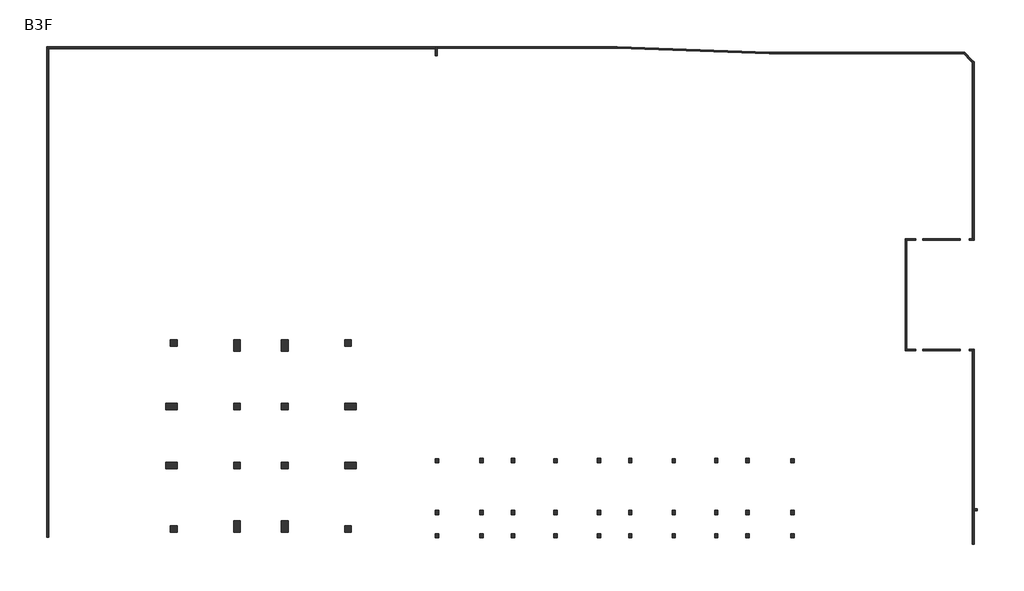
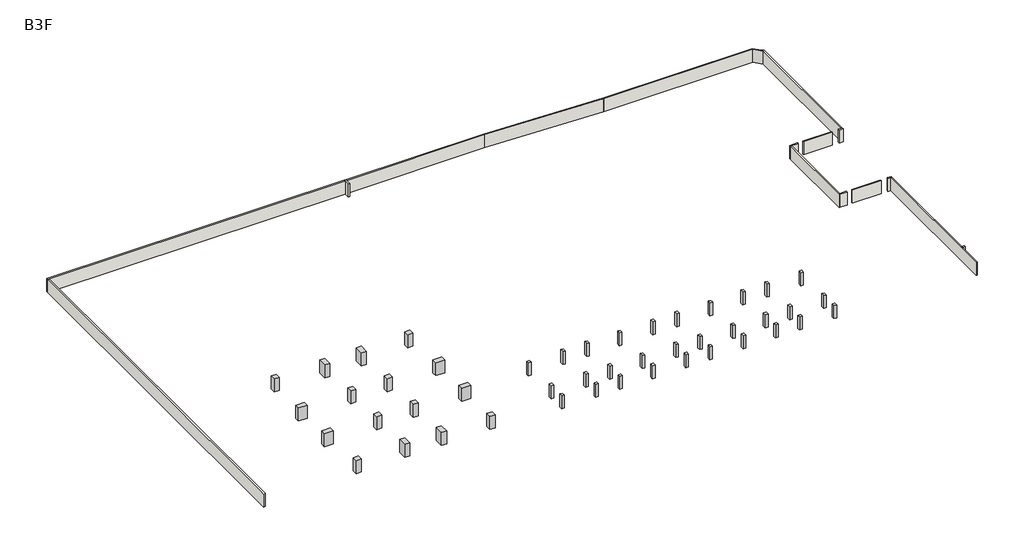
# One storey: 46 columns, 19 walls.
"""IFC4 building model written with IfcOpenShell, lengths in millimetres."""

import ifcopenshell
import ifcopenshell.guid

model = None  # the IFC model being written
_history = None  # IfcOwnerHistory: only IFC2X3 demands one
_inside = {}  # id of a spatial element -> (the spatial element, [elements in it])
_under = {}  # id of a project, library or spatial element -> (it, [spatial elements below it])
_declared = {}  # id of a project -> (the project, [libraries it declares])
_typed = {}  # id of a type object -> (the type object, [elements of that type])
_made_of = {}  # id of a material, layer set ... -> (it, [elements and type objects made of it])


def new_model(schema):
    """Start an empty IFC model of exactly this schema.

    Asked for "IFC4X3", IfcOpenShell would pick the latest addendum, in which some entities
    have other attributes; the version numbers below select the first issue.
    IFC2X3 requires an IfcOwnerHistory on every rooted entity: one is made here for all.
    """
    global model, _history
    if schema == "IFC4X3":
        model = ifcopenshell.file(schema_version=(4, 3, 0, 0))
    else:
        model = ifcopenshell.file(schema=schema)
    _inside.clear()
    _under.clear()
    _declared.clear()
    _typed.clear()
    _made_of.clear()
    _history = None
    if model.schema == "IFC2X3":
        org = make("IfcOrganization", Name="unknown")
        user = make(
            "IfcPersonAndOrganization",
            ThePerson=make("IfcPerson", FamilyName="unknown"),
            TheOrganization=org,
        )
        app = make(
            "IfcApplication",
            ApplicationDeveloper=org,
            Version="unknown",
            ApplicationFullName="unknown",
            ApplicationIdentifier="unknown",
        )
        _history = make(
            "IfcOwnerHistory",
            OwningUser=user,
            OwningApplication=app,
            ChangeAction="ADDED",
            CreationDate=0,
        )
    return model


def make(cls, **values):
    """One entity of the class cls with the attributes given. An attribute that is None is left unset."""
    return model.create_entity(
        cls, **{name: value for name, value in values.items() if value is not None}
    )


def rooted(cls, **values):
    """An entity with a GlobalId (a new one), such as an element, a storey or a relation."""
    return make(cls, GlobalId=ifcopenshell.guid.new(), OwnerHistory=_history, **values)


def si_unit(unit_type, name, prefix=None):
    """IfcSIUnit, for example si_unit("LENGTHUNIT", "METRE", prefix="MILLI")."""
    return make("IfcSIUnit", UnitType=unit_type, Prefix=prefix, Name=name)


def assignment(units):
    """IfcUnitAssignment: the units of a project."""
    return None if units is None else make("IfcUnitAssignment", Units=units)


def point(xyz):
    """IfcCartesianPoint."""
    return None if xyz is None else make("IfcCartesianPoint", Coordinates=xyz)


def direction(xyz):
    """IfcDirection."""
    return None if xyz is None else make("IfcDirection", DirectionRatios=xyz)


def frame(location, z_axis=None, x_axis=None):
    """IfcAxis2Placement3D, a coordinate frame: its origin and axes. An axis left out is left unset."""
    return make(
        "IfcAxis2Placement3D",
        Location=point(location),
        Axis=direction(z_axis),
        RefDirection=direction(x_axis),
    )


def origin():
    """The frame at (0, 0, 0) with its axes left unset."""
    return frame((0.0, 0.0, 0.0))


def place(relative_to, where):
    """IfcLocalPlacement: puts the frame where relative to a parent placement (None: the world)."""
    return make(
        "IfcLocalPlacement", PlacementRelTo=relative_to, RelativePlacement=where
    )


def context(
    kind, dimensions, precision=None, world=None, true_north=None, identifier=None
):
    """IfcGeometricRepresentationContext, for example the 3D "Model" context."""
    return make(
        "IfcGeometricRepresentationContext",
        ContextIdentifier=identifier,
        ContextType=kind,
        CoordinateSpaceDimension=dimensions,
        Precision=precision,
        WorldCoordinateSystem=world,
        TrueNorth=true_north,
    )


def project(units=None, contexts=None):
    """IfcProject with its units and contexts."""
    return rooted(
        "IfcProject",
        Name="project",
        RepresentationContexts=contexts,
        UnitsInContext=assignment(units),
    )


def spatial(cls, under=None, at=None, **own):
    """A site, building, storey or space (cls), placed at a placement, below another one or the project."""
    s = rooted(cls, ObjectPlacement=at, **own)
    if under is not None:
        _under.setdefault(under.id(), (under, []))[1].append(s)
    return s


def polyline(points):
    """IfcPolyline through the points."""
    return make("IfcPolyline", Points=[point(p) for p in points])


def outline(outer, holes=None, kind="AREA"):
    """IfcArbitraryClosedProfileDef: a profile drawn as a closed curve; with holes, ...WithVoids."""
    if holes is None:
        return make("IfcArbitraryClosedProfileDef", ProfileType=kind, OuterCurve=outer)
    return make(
        "IfcArbitraryProfileDefWithVoids",
        ProfileType=kind,
        OuterCurve=outer,
        InnerCurves=holes,
    )


def extrude(swept, where, along, depth):
    """IfcExtrudedAreaSolid: the profile swept, set in the frame where, extruded along a direction by depth."""
    return make(
        "IfcExtrudedAreaSolid",
        SweptArea=swept,
        Position=where,
        ExtrudedDirection=direction(along),
        Depth=depth,
    )


def faces_of(points, faces, orient=None, outer=None):
    """IfcFace entities. A face is a list of loops; a loop is a list of indices into points, from 0.

    orient and outer hold one flag for each loop. By default every Orientation is true, the
    first loop of a face is its IfcFaceOuterBound and the others are IfcFaceBound.
    """
    made = []
    for i, loops in enumerate(faces):
        bounds = []
        for j, loop in enumerate(loops):
            is_outer = j == 0 if outer is None else outer[i][j]
            bounds.append(
                make(
                    "IfcFaceOuterBound" if is_outer else "IfcFaceBound",
                    Bound=make("IfcPolyLoop", Polygon=[points[k] for k in loop]),
                    Orientation=True if orient is None else orient[i][j],
                )
            )
        made.append(make("IfcFace", Bounds=bounds))
    return made


def faceted_brep(points, faces, orient=None, outer=None, voids=None):
    """IfcFacetedBrep: a solid bounded by flat faces; with voids (closed shells), ...WithVoids."""
    shared = [point(p) for p in points]
    hull = make("IfcClosedShell", CfsFaces=faces_of(shared, faces, orient, outer))
    if voids is None:
        return make("IfcFacetedBrep", Outer=hull)
    return make(
        "IfcFacetedBrepWithVoids",
        Outer=hull,
        Voids=[
            make(cls, CfsFaces=faces_of(shared, fs, o, b)) for cls, fs, o, b in voids
        ],
    )


def shape(context_of_items, identifier, shape_type, items):
    """IfcShapeRepresentation: the items that make up one representation, for example the "Body"."""
    return make(
        "IfcShapeRepresentation",
        ContextOfItems=context_of_items,
        RepresentationIdentifier=identifier,
        RepresentationType=shape_type,
        Items=items,
    )


def source(mapping_origin, context_of_items, identifier, shape_type, items):
    """IfcRepresentationMap: a shape defined once, which mapped items show again and again."""
    return make(
        "IfcRepresentationMap",
        MappingOrigin=mapping_origin,
        MappedRepresentation=shape(context_of_items, identifier, shape_type, items),
    )


def transform(
    local_origin,
    x_axis=None,
    y_axis=None,
    z_axis=None,
    scale=None,
    scale2=None,
    scale3=None,
    uniform=True,
):
    """IfcCartesianTransformationOperator3D, or its non-uniform kind. x_axis, y_axis, z_axis: its Axis1, 2, 3."""
    if uniform:
        return make(
            "IfcCartesianTransformationOperator3D",
            Axis1=direction(x_axis),
            Axis2=direction(y_axis),
            LocalOrigin=point(local_origin),
            Scale=scale,
            Axis3=direction(z_axis),
        )
    return make(
        "IfcCartesianTransformationOperator3DnonUniform",
        Axis1=direction(x_axis),
        Axis2=direction(y_axis),
        LocalOrigin=point(local_origin),
        Scale=scale,
        Axis3=direction(z_axis),
        Scale2=scale2,
        Scale3=scale3,
    )


def mapped(mapping_source, mapping_target):
    """IfcMappedItem: shows the shape of a source again, moved by a transform."""
    return make(
        "IfcMappedItem", MappingSource=mapping_source, MappingTarget=mapping_target
    )


def made_of(thing, what):
    """Note that an element or type object is made of a material, layer set ...; save() writes the relation."""
    if what is not None:
        _made_of.setdefault(what.id(), (what, []))[1].append(thing)
    return thing


def element(
    cls,
    number,
    at=None,
    inside=None,
    cuts=None,
    type_object=None,
    material=None,
    context=None,
    identifier="Body",
    shape_type=None,
    held_by="IfcProductDefinitionShape",
    body=None,
    shapes=None,
    **own,
):
    """One element of the class cls, such as IfcWall. Its Tag is "e" and its number.

    at: its placement. inside: the storey or other place that contains it. cuts: it is an
    opening in that element (IfcRelVoidsElement). A single representation is given by context,
    identifier, shape_type and body (its items); several are given by shapes. held_by: the class
    of the entity that holds the representations. save() writes the other relations.
    """
    e = rooted(cls, Tag="e%d" % number, ObjectPlacement=at, **own)
    if body is not None:
        shapes = [shape(context, identifier, shape_type, body)]
    if shapes is not None:
        e.Representation = make(held_by, Representations=shapes)
    if inside is not None:
        _inside.setdefault(inside.id(), (inside, []))[1].append(e)
    if cuts is not None:
        rooted(
            "IfcRelVoidsElement", RelatingBuildingElement=cuts, RelatedOpeningElement=e
        )
    if type_object is not None:
        _typed.setdefault(type_object.id(), (type_object, []))[1].append(e)
    return made_of(e, material)


def aggregate(whole, parts):
    """IfcRelAggregates: a whole, such as a stair, and the parts it consists of."""
    return rooted("IfcRelAggregates", RelatingObject=whole, RelatedObjects=parts)


def save(model, path):
    """Write the relations noted so far, then the file.

    IfcRelAggregates (storeys below a building ...), IfcRelContainedInSpatialStructure (elements
    in a storey), IfcRelDefinesByType, IfcRelAssociatesMaterial and IfcRelDeclares: one each for
    every whole, place, type object, material and project.
    """
    for whole, parts in _under.values():
        aggregate(whole, parts)
    for where, things in _inside.values():
        rooted(
            "IfcRelContainedInSpatialStructure",
            RelatedElements=things,
            RelatingStructure=where,
        )
    for kind, things in _typed.values():
        rooted("IfcRelDefinesByType", RelatedObjects=things, RelatingType=kind)
    for what, things in _made_of.values():
        rooted("IfcRelAssociatesMaterial", RelatedObjects=things, RelatingMaterial=what)
    for by, libraries in _declared.values():
        rooted("IfcRelDeclares", RelatingContext=by, RelatedDefinitions=libraries)
    model.write(path)


def column_120_x_120cm_3a74ff08(model_context):
    return source(origin(), model_context, "Body", "SweptSolid", [
        extrude(outline(polyline([(600.0, 600.0), (600.0, -600.0), (-600.0, -600.0), (-600.0, 600.0), (600.0, 600.0)])), frame((0.0, 0.0, -9600.0), z_axis=(0.0, 0.0, 1.0), x_axis=(1.0, 0.0, 0.0)), (0.0, 0.0, 1.0), 3200.0),
    ])


def column_120_x_205cm_2bef428c(model_context):
    return source(origin(), model_context, "Body", "SweptSolid", [
        extrude(outline(polyline([(1025.0, 600.0), (1025.0, -600.0), (-1025.0, -600.0), (-1025.0, 600.0), (1025.0, 600.0)])), frame((0.0, 0.0, -9600.0), z_axis=(0.0, 0.0, 1.0), x_axis=(1.0, 0.0, 0.0)), (0.0, 0.0, 1.0), 3200.0),
    ])


def column_60_x_70cm_ea97037a(model_context):
    return source(origin(), model_context, "Body", "SweptSolid", [
        extrude(outline(polyline([(300.0, 350.0), (300.0, -350.0), (-300.0, -350.0), (-300.0, 350.0), (300.0, 350.0)])), frame((0.0, 0.0, -9600.0), z_axis=(0.0, 0.0, 1.0), x_axis=(1.0, 0.0, 0.0)), (0.0, 0.0, 1.0), 3200.0),
    ])


def column_60_x_80cm_a3a05302(model_context):
    return source(origin(), model_context, "Body", "SweptSolid", [
        extrude(outline(polyline([(300.0, 400.0), (300.0, -400.0), (-300.0, -400.0), (-300.0, 400.0), (300.0, 400.0)])), frame((0.0, 0.0, -9600.0), z_axis=(0.0, 0.0, 1.0), x_axis=(1.0, 0.0, 0.0)), (0.0, 0.0, 1.0), 3200.0),
    ])


model = new_model("IFC4")

# Units and contexts
model_context = context("Model", 3, world=origin())
ifc_project = project(units=[si_unit("LENGTHUNIT", "METRE", prefix="MILLI")], contexts=[model_context])

# Site, building, storey
site = spatial("IfcSite", under=ifc_project)
building = spatial("IfcBuilding", under=site)
storey = spatial("IfcBuildingStorey", under=building, Name="B3F", Elevation=-9600.0)

# Columns
placement = place(None, origin())
column_120_x_120cm_shape = column_120_x_120cm_3a74ff08(model_context)
element("IfcColumn", 1, ObjectType="混凝土柱-矩形 : 120 x 120cm", at=placement, inside=storey, context=model_context, shape_type="MappedRepresentation", body=[
    mapped(column_120_x_120cm_shape, transform((-22059.5068359, -37824.1915469, 0.0), x_axis=(1.0, 0.0, 0.0), y_axis=(0.0, 1.0, 0.0), z_axis=(0.0, 0.0, 1.0))),
])
element("IfcColumn", 2, ObjectType="混凝土柱-矩形 : 120 x 120cm", at=placement, inside=storey, context=model_context, shape_type="MappedRepresentation", body=[
    mapped(column_120_x_120cm_shape, transform((9090.4931641, -37824.1915469, 0.0), x_axis=(1.0, 0.0, 0.0), y_axis=(0.0, 1.0, 0.0), z_axis=(0.0, 0.0, 1.0))),
])
element("IfcColumn", 3, ObjectType="混凝土柱-矩形 : 120 x 120cm", at=placement, inside=storey, context=model_context, shape_type="MappedRepresentation", body=[
    mapped(column_120_x_120cm_shape, transform((-22059.5068359, -4624.191547, 0.0), x_axis=(1.0, 0.0, 0.0), y_axis=(0.0, 1.0, 0.0), z_axis=(0.0, 0.0, 1.0))),
])
element("IfcColumn", 4, ObjectType="混凝土柱-矩形 : 120 x 120cm", at=placement, inside=storey, context=model_context, shape_type="MappedRepresentation", body=[
    mapped(column_120_x_120cm_shape, transform((9090.4931641, -4624.191547, 0.0), x_axis=(1.0, 0.0, 0.0), y_axis=(0.0, 1.0, 0.0), z_axis=(0.0, 0.0, 1.0))),
])
element("IfcColumn", 5, ObjectType="混凝土柱-矩形 : 120 x 120cm", at=placement, inside=storey, context=model_context, shape_type="MappedRepresentation", body=[
    mapped(column_120_x_120cm_shape, transform((-10759.5068359, -15974.191547, 0.0), x_axis=(1.0, 0.0, 0.0), y_axis=(0.0, 1.0, 0.0), z_axis=(0.0, 0.0, 1.0))),
])
element("IfcColumn", 6, ObjectType="混凝土柱-矩形 : 120 x 120cm", at=placement, inside=storey, context=model_context, shape_type="MappedRepresentation", body=[
    mapped(column_120_x_120cm_shape, transform((-2209.5068359, -15974.191547, 0.0), x_axis=(1.0, 0.0, 0.0), y_axis=(0.0, 1.0, 0.0), z_axis=(0.0, 0.0, 1.0))),
])
element("IfcColumn", 7, ObjectType="混凝土柱-矩形 : 120 x 120cm", at=placement, inside=storey, context=model_context, shape_type="MappedRepresentation", body=[
    mapped(column_120_x_120cm_shape, transform((-10759.5068359, -26474.1915469, 0.0), x_axis=(1.0, 0.0, 0.0), y_axis=(0.0, 1.0, 0.0), z_axis=(0.0, 0.0, 1.0))),
])
element("IfcColumn", 8, ObjectType="混凝土柱-矩形 : 120 x 120cm", at=placement, inside=storey, context=model_context, shape_type="MappedRepresentation", body=[
    mapped(column_120_x_120cm_shape, transform((-2209.5068359, -26474.1915469, 0.0), x_axis=(1.0, 0.0, 0.0), y_axis=(0.0, 1.0, 0.0), z_axis=(0.0, 0.0, 1.0))),
])
column_120_x_205cm_shape = column_120_x_205cm_2bef428c(model_context)
element("IfcColumn", 9, ObjectType="混凝土柱-矩形 : 120 x 205cm", at=placement, inside=storey, context=model_context, shape_type="MappedRepresentation", body=[
    mapped(column_120_x_205cm_shape, transform((-10759.5068359, -37399.1915469, 0.0), x_axis=(0.0, 1.0, 0.0), y_axis=(-1.0, 0.0, 0.0), z_axis=(0.0, 0.0, 1.0))),
])
element("IfcColumn", 10, ObjectType="混凝土柱-矩形 : 120 x 205cm", at=placement, inside=storey, context=model_context, shape_type="MappedRepresentation", body=[
    mapped(column_120_x_205cm_shape, transform((-2209.5068359, -37399.1915469, 0.0), x_axis=(0.0, 1.0, 0.0), y_axis=(-1.0, 0.0, 0.0), z_axis=(0.0, 0.0, 1.0))),
])
element("IfcColumn", 11, ObjectType="混凝土柱-矩形 : 120 x 205cm", at=placement, inside=storey, context=model_context, shape_type="MappedRepresentation", body=[
    mapped(column_120_x_205cm_shape, transform((9515.4931641, -26474.1915469, 0.0), x_axis=(1.0, 0.0, 0.0), y_axis=(0.0, 1.0, 0.0), z_axis=(0.0, 0.0, 1.0))),
])
element("IfcColumn", 12, ObjectType="混凝土柱-矩形 : 120 x 205cm", at=placement, inside=storey, context=model_context, shape_type="MappedRepresentation", body=[
    mapped(column_120_x_205cm_shape, transform((9515.4931641, -15974.1915469, 0.0), x_axis=(1.0, 0.0, 0.0), y_axis=(0.0, 1.0, 0.0), z_axis=(0.0, 0.0, 1.0))),
])
element("IfcColumn", 13, ObjectType="混凝土柱-矩形 : 120 x 205cm", at=placement, inside=storey, context=model_context, shape_type="MappedRepresentation", body=[
    mapped(column_120_x_205cm_shape, transform((-22484.5068359, -26474.1915469, 0.0), x_axis=(1.0, 0.0, 0.0), y_axis=(0.0, 1.0, 0.0), z_axis=(0.0, 0.0, 1.0))),
])
element("IfcColumn", 14, ObjectType="混凝土柱-矩形 : 120 x 205cm", at=placement, inside=storey, context=model_context, shape_type="MappedRepresentation", body=[
    mapped(column_120_x_205cm_shape, transform((-22484.5068359, -15974.1915469, 0.0), x_axis=(1.0, 0.0, 0.0), y_axis=(0.0, 1.0, 0.0), z_axis=(0.0, 0.0, 1.0))),
])
element("IfcColumn", 15, ObjectType="混凝土柱-矩形 : 120 x 205cm", at=placement, inside=storey, context=model_context, shape_type="MappedRepresentation", body=[
    mapped(column_120_x_205cm_shape, transform((-10759.5068359, -5049.1915469, 0.0), x_axis=(0.0, 1.0, 0.0), y_axis=(-1.0, 0.0, 0.0), z_axis=(0.0, 0.0, 1.0))),
])
element("IfcColumn", 16, ObjectType="混凝土柱-矩形 : 120 x 205cm", at=placement, inside=storey, context=model_context, shape_type="MappedRepresentation", body=[
    mapped(column_120_x_205cm_shape, transform((-2209.5068359, -5049.1915469, 0.0), x_axis=(0.0, 1.0, 0.0), y_axis=(-1.0, 0.0, 0.0), z_axis=(0.0, 0.0, 1.0))),
])
column_60_x_70cm_shape = column_60_x_70cm_ea97037a(model_context)
element("IfcColumn", 17, ObjectType="混凝土柱-矩形 : 60 x 70cm", at=placement, inside=storey, context=model_context, shape_type="MappedRepresentation", body=[
    mapped(column_60_x_70cm_shape, transform((24947.2847548, -25660.3669191, 0.0), x_axis=(1.0, 0.0, 0.0), y_axis=(0.0, 1.0, 0.0), z_axis=(0.0, 0.0, 1.0))),
])
element("IfcColumn", 18, ObjectType="混凝土柱-矩形 : 60 x 70cm", at=placement, inside=storey, context=model_context, shape_type="MappedRepresentation", body=[
    mapped(column_60_x_70cm_shape, transform((24940.4931641, -39024.1520077, 0.0), x_axis=(1.0, 0.0, 0.0), y_axis=(0.0, 1.0, 0.0), z_axis=(0.0, 0.0, 1.0))),
])
element("IfcColumn", 19, ObjectType="混凝土柱-矩形 : 60 x 70cm", at=placement, inside=storey, context=model_context, shape_type="MappedRepresentation", body=[
    mapped(column_60_x_70cm_shape, transform((32940.4932098, -39024.1520077, 0.0), x_axis=(1.0, 0.0, 0.0), y_axis=(0.0, 1.0, 0.0), z_axis=(0.0, 0.0, 1.0))),
])
element("IfcColumn", 20, ObjectType="混凝土柱-矩形 : 60 x 70cm", at=placement, inside=storey, context=model_context, shape_type="MappedRepresentation", body=[
    mapped(column_60_x_70cm_shape, transform((38540.49321, -39024.1520077, 0.0), x_axis=(1.0, 0.0, 0.0), y_axis=(0.0, 1.0, 0.0), z_axis=(0.0, 0.0, 1.0))),
])
element("IfcColumn", 21, ObjectType="混凝土柱-矩形 : 60 x 70cm", at=placement, inside=storey, context=model_context, shape_type="MappedRepresentation", body=[
    mapped(column_60_x_70cm_shape, transform((46140.4927738, -39024.1520077, 0.0), x_axis=(1.0, 0.0, 0.0), y_axis=(0.0, 1.0, 0.0), z_axis=(0.0, 0.0, 1.0))),
])
element("IfcColumn", 22, ObjectType="混凝土柱-矩形 : 60 x 70cm", at=placement, inside=storey, context=model_context, shape_type="MappedRepresentation", body=[
    mapped(column_60_x_70cm_shape, transform((53890.4932101, -39024.1520077, 0.0), x_axis=(1.0, 0.0, 0.0), y_axis=(0.0, 1.0, 0.0), z_axis=(0.0, 0.0, 1.0))),
])
element("IfcColumn", 23, ObjectType="混凝土柱-矩形 : 60 x 70cm", at=placement, inside=storey, context=model_context, shape_type="MappedRepresentation", body=[
    mapped(column_60_x_70cm_shape, transform((59490.4932102, -39024.1520077, 0.0), x_axis=(1.0, 0.0, 0.0), y_axis=(0.0, 1.0, 0.0), z_axis=(0.0, 0.0, 1.0))),
])
element("IfcColumn", 24, ObjectType="混凝土柱-矩形 : 60 x 70cm", at=placement, inside=storey, context=model_context, shape_type="MappedRepresentation", body=[
    mapped(column_60_x_70cm_shape, transform((67240.4936462, -39024.1520077, 0.0), x_axis=(1.0, 0.0, 0.0), y_axis=(0.0, 1.0, 0.0), z_axis=(0.0, 0.0, 1.0))),
])
element("IfcColumn", 25, ObjectType="混凝土柱-矩形 : 60 x 70cm", at=placement, inside=storey, context=model_context, shape_type="MappedRepresentation", body=[
    mapped(column_60_x_70cm_shape, transform((74840.4932103, -39024.1520077, 0.0), x_axis=(1.0, 0.0, 0.0), y_axis=(0.0, 1.0, 0.0), z_axis=(0.0, 0.0, 1.0))),
])
element("IfcColumn", 26, ObjectType="混凝土柱-矩形 : 60 x 70cm", at=placement, inside=storey, context=model_context, shape_type="MappedRepresentation", body=[
    mapped(column_60_x_70cm_shape, transform((80440.4932105, -39024.1520077, 0.0), x_axis=(1.0, 0.0, 0.0), y_axis=(0.0, 1.0, 0.0), z_axis=(0.0, 0.0, 1.0))),
])
element("IfcColumn", 27, ObjectType="混凝土柱-矩形 : 60 x 70cm", at=placement, inside=storey, context=model_context, shape_type="MappedRepresentation", body=[
    mapped(column_60_x_70cm_shape, transform((88440.4932562, -39024.1520077, 0.0), x_axis=(1.0, 0.0, 0.0), y_axis=(0.0, 1.0, 0.0), z_axis=(0.0, 0.0, 1.0))),
])
element("IfcColumn", 28, ObjectType="混凝土柱-矩形 : 60 x 70cm", at=placement, inside=storey, context=model_context, shape_type="MappedRepresentation", body=[
    mapped(column_60_x_70cm_shape, transform((46147.2847548, -25660.3669191, 0.0), x_axis=(1.0, 0.0, 0.0), y_axis=(0.0, 1.0, 0.0), z_axis=(0.0, 0.0, 1.0))),
])
element("IfcColumn", 29, ObjectType="混凝土柱-矩形 : 60 x 70cm", at=placement, inside=storey, context=model_context, shape_type="MappedRepresentation", body=[
    mapped(column_60_x_70cm_shape, transform((67247.2847548, -25660.3669191, 0.0), x_axis=(1.0, 0.0, 0.0), y_axis=(0.0, 1.0, 0.0), z_axis=(0.0, 0.0, 1.0))),
])
element("IfcColumn", 30, ObjectType="混凝土柱-矩形 : 60 x 70cm", at=placement, inside=storey, context=model_context, shape_type="MappedRepresentation", body=[
    mapped(column_60_x_70cm_shape, transform((88440.4928203, -25649.1427382, 0.0), x_axis=(1.0, 0.0, 0.0), y_axis=(0.0, 1.0, 0.0), z_axis=(0.0, 0.0, 1.0))),
])
column_60_x_80cm_shape = column_60_x_80cm_a3a05302(model_context)
element("IfcColumn", 31, ObjectType="混凝土柱-矩形 : 60 x 80cm", at=placement, inside=storey, context=model_context, shape_type="MappedRepresentation", body=[
    mapped(column_60_x_80cm_shape, transform((24940.4931641, -34874.1426254, 0.0), x_axis=(1.0, 0.0, 0.0), y_axis=(0.0, 1.0, 0.0), z_axis=(0.0, 0.0, 1.0))),
])
element("IfcColumn", 32, ObjectType="混凝土柱-矩形 : 60 x 80cm", at=placement, inside=storey, context=model_context, shape_type="MappedRepresentation", body=[
    mapped(column_60_x_80cm_shape, transform((32940.4932098, -34874.1426254, 0.0), x_axis=(1.0, 0.0, 0.0), y_axis=(0.0, 1.0, 0.0), z_axis=(0.0, 0.0, 1.0))),
])
element("IfcColumn", 33, ObjectType="混凝土柱-矩形 : 60 x 80cm", at=placement, inside=storey, context=model_context, shape_type="MappedRepresentation", body=[
    mapped(column_60_x_80cm_shape, transform((38540.49321, -34874.1426254, 0.0), x_axis=(1.0, 0.0, 0.0), y_axis=(0.0, 1.0, 0.0), z_axis=(0.0, 0.0, 1.0))),
])
element("IfcColumn", 34, ObjectType="混凝土柱-矩形 : 60 x 80cm", at=placement, inside=storey, context=model_context, shape_type="MappedRepresentation", body=[
    mapped(column_60_x_80cm_shape, transform((46140.4927738, -34874.1426254, 0.0), x_axis=(1.0, 0.0, 0.0), y_axis=(0.0, 1.0, 0.0), z_axis=(0.0, 0.0, 1.0))),
])
element("IfcColumn", 35, ObjectType="混凝土柱-矩形 : 60 x 80cm", at=placement, inside=storey, context=model_context, shape_type="MappedRepresentation", body=[
    mapped(column_60_x_80cm_shape, transform((53890.4932101, -34874.1426254, 0.0), x_axis=(1.0, 0.0, 0.0), y_axis=(0.0, 1.0, 0.0), z_axis=(0.0, 0.0, 1.0))),
])
element("IfcColumn", 36, ObjectType="混凝土柱-矩形 : 60 x 80cm", at=placement, inside=storey, context=model_context, shape_type="MappedRepresentation", body=[
    mapped(column_60_x_80cm_shape, transform((59490.4932102, -34874.1426254, 0.0), x_axis=(1.0, 0.0, 0.0), y_axis=(0.0, 1.0, 0.0), z_axis=(0.0, 0.0, 1.0))),
])
element("IfcColumn", 37, ObjectType="混凝土柱-矩形 : 60 x 80cm", at=placement, inside=storey, context=model_context, shape_type="MappedRepresentation", body=[
    mapped(column_60_x_80cm_shape, transform((67240.4936462, -34874.1426254, 0.0), x_axis=(1.0, 0.0, 0.0), y_axis=(0.0, 1.0, 0.0), z_axis=(0.0, 0.0, 1.0))),
])
element("IfcColumn", 38, ObjectType="混凝土柱-矩形 : 60 x 80cm", at=placement, inside=storey, context=model_context, shape_type="MappedRepresentation", body=[
    mapped(column_60_x_80cm_shape, transform((74840.4932103, -34874.1426254, 0.0), x_axis=(1.0, 0.0, 0.0), y_axis=(0.0, 1.0, 0.0), z_axis=(0.0, 0.0, 1.0))),
])
element("IfcColumn", 39, ObjectType="混凝土柱-矩形 : 60 x 80cm", at=placement, inside=storey, context=model_context, shape_type="MappedRepresentation", body=[
    mapped(column_60_x_80cm_shape, transform((80440.4932105, -34874.1426254, 0.0), x_axis=(1.0, 0.0, 0.0), y_axis=(0.0, 1.0, 0.0), z_axis=(0.0, 0.0, 1.0))),
])
element("IfcColumn", 40, ObjectType="混凝土柱-矩形 : 60 x 80cm", at=placement, inside=storey, context=model_context, shape_type="MappedRepresentation", body=[
    mapped(column_60_x_80cm_shape, transform((88440.4932562, -34874.1426254, 0.0), x_axis=(1.0, 0.0, 0.0), y_axis=(0.0, 1.0, 0.0), z_axis=(0.0, 0.0, 1.0))),
])
element("IfcColumn", 41, ObjectType="混凝土柱-矩形 : 60 x 80cm", at=placement, inside=storey, context=model_context, shape_type="MappedRepresentation", body=[
    mapped(column_60_x_80cm_shape, transform((32940.4932098, -25599.1427382, 0.0), x_axis=(1.0, 0.0, 0.0), y_axis=(0.0, 1.0, 0.0), z_axis=(0.0, 0.0, 1.0))),
])
element("IfcColumn", 42, ObjectType="混凝土柱-矩形 : 60 x 80cm", at=placement, inside=storey, context=model_context, shape_type="MappedRepresentation", body=[
    mapped(column_60_x_80cm_shape, transform((38540.4923382, -25599.1427382, 0.0), x_axis=(1.0, 0.0, 0.0), y_axis=(0.0, 1.0, 0.0), z_axis=(0.0, 0.0, 1.0))),
])
element("IfcColumn", 43, ObjectType="混凝土柱-矩形 : 60 x 80cm", at=placement, inside=storey, context=model_context, shape_type="MappedRepresentation", body=[
    mapped(column_60_x_80cm_shape, transform((53890.493646, -25599.1427382, 0.0), x_axis=(1.0, 0.0, 0.0), y_axis=(0.0, 1.0, 0.0), z_axis=(0.0, 0.0, 1.0))),
])
element("IfcColumn", 44, ObjectType="混凝土柱-矩形 : 60 x 80cm", at=placement, inside=storey, context=model_context, shape_type="MappedRepresentation", body=[
    mapped(column_60_x_80cm_shape, transform((59490.4927743, -25599.1427382, 0.0), x_axis=(1.0, 0.0, 0.0), y_axis=(0.0, 1.0, 0.0), z_axis=(0.0, 0.0, 1.0))),
])
element("IfcColumn", 45, ObjectType="混凝土柱-矩形 : 60 x 80cm", at=placement, inside=storey, context=model_context, shape_type="MappedRepresentation", body=[
    mapped(column_60_x_80cm_shape, transform((74840.4936462, -25599.1427382, 0.0), x_axis=(1.0, 0.0, 0.0), y_axis=(0.0, 1.0, 0.0), z_axis=(0.0, 0.0, 1.0))),
])
element("IfcColumn", 46, ObjectType="混凝土柱-矩形 : 60 x 80cm", at=placement, inside=storey, context=model_context, shape_type="MappedRepresentation", body=[
    mapped(column_60_x_80cm_shape, transform((80440.4927746, -25599.1427382, 0.0), x_axis=(1.0, 0.0, 0.0), y_axis=(0.0, 1.0, 0.0), z_axis=(0.0, 0.0, 1.0))),
])

# Walls
element("IfcWall", 47, ObjectType="RC牆 40cm", at=placement, inside=storey, context=model_context, shape_type="Brep", body=[
    faceted_brep([(25040.4929154, 46725.8663683, -9600.0), (25040.4929154, 48025.8674228, -9600.0), (25040.4929154, 48325.8674228, -9600.0), (25040.4929154, 48325.8674228, -6400.0), (25040.4929154, 48025.8674228, -6400.0), (25040.4929154, 46725.8663683, -6400.0), (24640.4929154, 46725.8663683, -9600.0), (24640.4929154, 46725.8663683, -6400.0), (24640.4929154, 47925.8674228, -6400.0), (24640.4929154, 48325.8674228, -6400.0), (24640.4929154, 48325.8674228, -9600.0), (24640.4929154, 47925.8674228, -9600.0)], [[[0, 1, 2, 3, 4, 5]], [[6, 7, 8, 9, 10, 11]], [[2, 1, 0, 6, 11, 10]], [[5, 4, 3, 9, 8, 7]], [[0, 5, 7, 6]], [[3, 2, 10, 9]]]),
])
element("IfcWall", 48, ObjectType="RC牆 40cm", at=placement, inside=storey, context=model_context, shape_type="Brep", body=[
    faceted_brep([(24640.4929154, 48325.8674228, -9600.0), (-44759.5068345, 48325.8674228, -9600.0), (-44759.5068345, 48325.8674228, -6400.0), (24640.4929154, 48325.8674228, -6400.0), (24640.4929154, 47925.8674228, -9600.0), (24640.4929154, 47925.8674228, -6400.0), (-44359.5068345, 47925.8674228, -6400.0), (-44759.5068345, 47925.8674228, -6400.0), (-44759.5068345, 47925.8674228, -9600.0), (-44359.5068345, 47925.8674228, -9600.0)], [[[0, 1, 2, 3]], [[4, 5, 6, 7, 8, 9]], [[1, 0, 4, 9, 8]], [[3, 2, 7, 6, 5]], [[2, 1, 8, 7]], [[0, 3, 5, 4]]]),
])
element("IfcWall", 49, ObjectType="RC牆 40cm", at=placement, inside=storey, context=model_context, shape_type="SweptSolid", body=[
    extrude(outline(polyline([(-44759.5068345, -39283.4546186), (-44759.5068345, 47925.8674228), (-44359.5068345, 47925.8674228), (-44359.5068345, -39283.4546186), (-44759.5068345, -39283.4546186)])), frame((0.0, 0.0, -9600.0), z_axis=(0.0, 0.0, 1.0), x_axis=(1.0, 0.0, 0.0)), (0.0, 0.0, 1.0), 3200.0),
])
element("IfcWall", 50, ObjectType="RC牆 40cm", at=placement, inside=storey, context=model_context, shape_type="SweptSolid", body=[
    extrude(outline(polyline([(120890.4932545, -34199.123028), (121490.4930058, -34199.123028), (121490.4930058, -34599.123028), (120890.4932545, -34599.123028), (120890.4932545, -34199.123028)])), frame((0.0, 0.0, -9600.0), z_axis=(0.0, 0.0, 1.0), x_axis=(1.0, 0.0, 0.0)), (0.0, 0.0, 1.0), 3200.0),
])
element("IfcWall", 51, ObjectType="RC牆 40cm", at=placement, inside=storey, context=model_context, shape_type="SweptSolid", body=[
    extrude(outline(polyline([(120890.4932545, -34199.123028), (121490.4930058, -34199.123028), (121490.4930058, -34599.123028), (120890.4932545, -34599.123028), (120890.4932545, -34199.123028)])), frame((0.0, 0.0, -9600.0), z_axis=(0.0, 0.0, 1.0), x_axis=(1.0, 0.0, 0.0)), (0.0, 0.0, 1.0), 3200.0),
])
element("IfcWall", 52, ObjectType="RC牆 40cm", at=placement, inside=storey, context=model_context, shape_type="SweptSolid", body=[
    extrude(outline(polyline([(120890.4932545, -34199.123028), (121490.4930058, -34199.123028), (121490.4930058, -34599.123028), (120890.4932545, -34599.123028), (120890.4932545, -34199.123028)])), frame((0.0, 0.0, -9600.0), z_axis=(0.0, 0.0, 1.0), x_axis=(1.0, 0.0, 0.0)), (0.0, 0.0, 1.0), 3200.0),
])
element("IfcWall", 53, ObjectType="RC牆 30cm", at=placement, inside=storey, context=model_context, shape_type="SweptSolid", body=[
    extrude(outline(polyline([(84334.8423878, 47000.8663665), (57134.8423876, 48025.8674228), (57140.4929616, 48325.8674228), (84340.4929618, 47300.8663665), (84334.8423878, 47000.8663665)])), frame((0.0, 0.0, -9600.0), z_axis=(0.0, 0.0, 1.0), x_axis=(1.0, 0.0, 0.0)), (0.0, 0.0, 1.0), 3200.0),
])
element("IfcWall", 54, ObjectType="RC牆 30cm", at=placement, inside=storey, context=model_context, shape_type="SweptSolid", body=[
    extrude(outline(polyline([(57134.8423876, 48025.8674228), (25040.4929154, 48025.8674228), (25040.4929154, 48325.8674228), (57140.4929616, 48325.8674228), (57134.8423876, 48025.8674228)])), frame((0.0, 0.0, -9600.0), z_axis=(0.0, 0.0, 1.0), x_axis=(1.0, 0.0, 0.0)), (0.0, 0.0, 1.0), 3200.0),
])
element("IfcWall", 55, ObjectType="RC牆 30cm", at=placement, inside=storey, context=model_context, shape_type="Brep", body=[
    faceted_brep([(120890.2096048, 14000.8663665, -9600.0), (120890.2096048, 45596.7528586, -9600.0), (120890.2096048, 45596.7528586, -6400.0), (120890.2096048, 14000.8663665, -6400.0), (120590.2096048, 14000.8663665, -9600.0), (120590.2096048, 14000.8663665, -6400.0), (120590.2096048, 45472.4887898, -6400.0), (120590.2096048, 45896.7528586, -6400.0), (120590.2096048, 45896.7528586, -9600.0), (120590.2096048, 45472.4887898, -9600.0)], [[[0, 1, 2, 3]], [[4, 5, 6, 7, 8, 9]], [[1, 0, 4, 9, 8]], [[3, 2, 7, 6, 5]], [[2, 1, 8, 7]], [[0, 3, 5, 4]]]),
])
element("IfcWall", 56, ObjectType="RC牆 30cm", at=placement, inside=storey, context=model_context, shape_type="Brep", body=[
    faceted_brep([(120590.2096048, 45896.7528586, -9600.0), (119186.0960968, 47300.8663665, -9600.0), (119186.0960968, 47300.8663665, -6400.0), (120590.2096048, 45896.7528586, -6400.0), (120590.2096048, 45472.4887898, -9600.0), (120590.2096048, 45472.4887898, -6400.0), (119061.8320281, 47000.8663665, -6400.0), (118761.8320281, 47300.8663665, -6400.0), (118761.8320281, 47300.8663665, -9600.0), (119061.8320281, 47000.8663665, -9600.0)], [[[0, 1, 2, 3]], [[4, 5, 6, 7, 8, 9]], [[1, 0, 4, 9, 8]], [[3, 2, 7, 6, 5]], [[2, 1, 8, 7]], [[0, 3, 5, 4]]]),
])
element("IfcWall", 57, ObjectType="RC牆 30cm", at=placement, inside=storey, context=model_context, shape_type="SweptSolid", body=[
    extrude(outline(polyline([(84340.4929618, 47300.8663665), (118761.8320281, 47300.8663665), (119061.8320281, 47000.8663665), (84334.8423878, 47000.8663665), (84340.4929618, 47300.8663665)])), frame((0.0, 0.0, -9600.0), z_axis=(0.0, 0.0, 1.0), x_axis=(1.0, 0.0, 0.0)), (0.0, 0.0, 1.0), 3200.0),
])
element("IfcWall", 58, ObjectType="RC牆 30cm", at=placement, inside=storey, context=model_context, shape_type="Brep", body=[
    faceted_brep([(120890.2096048, 14000.8663665, -9600.0), (120590.2096048, 14000.8663665, -9600.0), (119990.4932545, 14000.8663665, -9600.0), (119990.4932545, 14000.8663665, -6400.0), (120590.2096048, 14000.8663665, -6400.0), (120890.2096048, 14000.8663665, -6400.0), (120890.2096048, 13700.8663665, -9600.0), (120890.2096048, 13700.8663665, -6400.0), (119990.4932545, 13700.8663665, -6400.0), (119990.4932545, 13700.8663665, -9600.0)], [[[0, 1, 2, 3, 4, 5]], [[6, 7, 8, 9]], [[2, 1, 0, 6, 9]], [[3, 2, 9, 8]], [[5, 4, 3, 8, 7]], [[0, 5, 7, 6]]]),
])
element("IfcWall", 59, ObjectType="RC牆 30cm", at=placement, inside=storey, context=model_context, shape_type="SweptSolid", body=[
    extrude(outline(polyline([(111690.4932562, 14000.8663665), (118390.4932562, 14000.8663665), (118390.4932562, 13700.8663665), (111690.4932562, 13700.8663665), (111690.4932562, 14000.8663665)])), frame((0.0, 0.0, -9600.0), z_axis=(0.0, 0.0, 1.0), x_axis=(1.0, 0.0, 0.0)), (0.0, 0.0, 1.0), 3200.0),
])
element("IfcWall", 60, ObjectType="RC牆 30cm", at=placement, inside=storey, context=model_context, shape_type="Brep", body=[
    faceted_brep([(110490.4932545, 14000.8663665, -9600.0), (108590.2303824, 14000.8663665, -9600.0), (108590.2303824, 14000.8663665, -6400.0), (110490.4932545, 14000.8663665, -6400.0), (110490.4932545, 13700.8663665, -9600.0), (110490.4932545, 13700.8663665, -6400.0), (108890.2303824, 13700.8663665, -6400.0), (108590.2303824, 13700.8663665, -6400.0), (108590.2303824, 13700.8663665, -9600.0), (108890.2303824, 13700.8663665, -9600.0)], [[[0, 1, 2, 3]], [[4, 5, 6, 7, 8, 9]], [[1, 0, 4, 9, 8]], [[3, 2, 7, 6, 5]], [[0, 3, 5, 4]], [[2, 1, 8, 7]]]),
])
element("IfcWall", 61, ObjectType="RC牆 30cm", at=placement, inside=storey, context=model_context, shape_type="Brep", body=[
    faceted_brep([(108590.2303824, 13700.8663665, -9600.0), (108590.2303824, -5999.1325773, -9600.0), (108590.2303824, -5999.1325773, -6400.0), (108590.2303824, 13700.8663665, -6400.0), (108890.2303824, 13700.8663665, -9600.0), (108890.2303824, 13700.8663665, -6400.0), (108890.2303824, -5699.1325773, -6400.0), (108890.2303824, -5999.1325773, -6400.0), (108890.2303824, -5999.1325773, -9600.0), (108890.2303824, -5699.1325773, -9600.0)], [[[0, 1, 2, 3]], [[4, 5, 6, 7, 8, 9]], [[1, 0, 4, 9, 8]], [[3, 2, 7, 6, 5]], [[2, 1, 8, 7]], [[0, 3, 5, 4]]]),
])
element("IfcWall", 62, ObjectType="RC牆 30cm", at=placement, inside=storey, context=model_context, shape_type="SweptSolid", body=[
    extrude(outline(polyline([(110490.4932562, -5999.1325773), (108890.2303824, -5999.1325773), (108890.2303824, -5699.1325773), (110490.4932562, -5699.1325773), (110490.4932562, -5999.1325773)])), frame((0.0, 0.0, -9600.0), z_axis=(0.0, 0.0, 1.0), x_axis=(1.0, 0.0, 0.0)), (0.0, 0.0, 1.0), 3200.0),
])
element("IfcWall", 63, ObjectType="RC牆 30cm", at=placement, inside=storey, context=model_context, shape_type="SweptSolid", body=[
    extrude(outline(polyline([(118390.4932562, -5999.1325773), (111690.4932562, -5999.1325773), (111690.4932562, -5699.1325773), (118390.4932562, -5699.1325773), (118390.4932562, -5999.1325773)])), frame((0.0, 0.0, -9600.0), z_axis=(0.0, 0.0, 1.0), x_axis=(1.0, 0.0, 0.0)), (0.0, 0.0, 1.0), 3200.0),
])
element("IfcWall", 64, ObjectType="RC牆 30cm", at=placement, inside=storey, context=model_context, shape_type="Brep", body=[
    faceted_brep([(119990.4932545, -5999.1325773, -9600.0), (120590.2096048, -5999.1325773, -9600.0), (120890.2096048, -5999.1325773, -9600.0), (120890.2096048, -5999.1325773, -6400.0), (120590.2096048, -5999.1325773, -6400.0), (119990.4932545, -5999.1325773, -6400.0), (119990.4932545, -5699.1325773, -9600.0), (119990.4932545, -5699.1325773, -6400.0), (120890.2096048, -5699.1325773, -6400.0), (120890.2096048, -5699.1325773, -9600.0)], [[[0, 1, 2, 3, 4, 5]], [[6, 7, 8, 9]], [[2, 1, 0, 6, 9]], [[5, 4, 3, 8, 7]], [[0, 5, 7, 6]], [[3, 2, 9, 8]]]),
])
element("IfcWall", 65, ObjectType="RC牆 30cm", at=placement, inside=storey, context=model_context, shape_type="SweptSolid", body=[
    extrude(outline(polyline([(120590.2096048, -40568.5163059), (120590.2096048, -5999.1325773), (120890.2096048, -5999.1325773), (120890.2096048, -40568.5163059), (120590.2096048, -40568.5163059)])), frame((0.0, 0.0, -9600.0), z_axis=(0.0, 0.0, 1.0), x_axis=(1.0, 0.0, 0.0)), (0.0, 0.0, 1.0), 3200.0),
])

save(model, "model.ifc")
